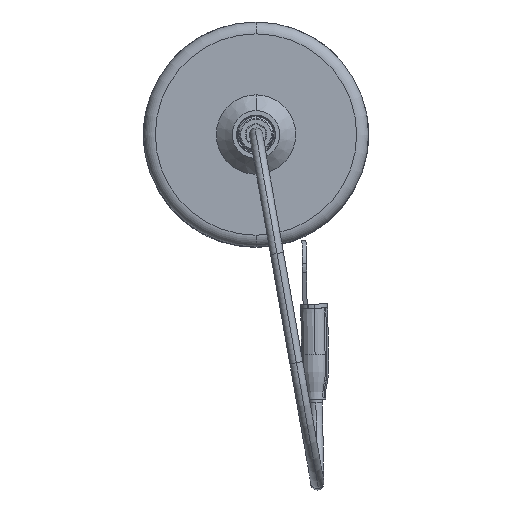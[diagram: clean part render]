
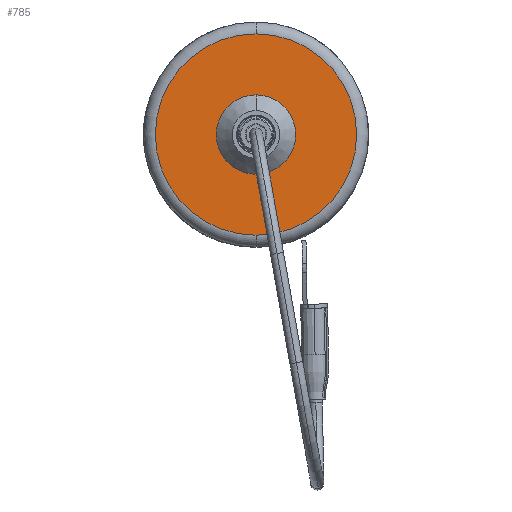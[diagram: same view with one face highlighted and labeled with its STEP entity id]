
A CAD part, top view. The second image highlights one B-rep face of the part: STEP entity #785.
In plain terms, the highlighted planar face has unit normal (0, 0, 1).
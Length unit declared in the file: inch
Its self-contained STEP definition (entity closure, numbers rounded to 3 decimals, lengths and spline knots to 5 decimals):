
#38 = DIRECTION ( 'NONE',  ( 0., 0., 1. ) ) ;
#494 = CARTESIAN_POINT ( 'NONE',  ( 0., -0.49902, 1.33465 ) ) ;
#785 = ADVANCED_FACE ( 'NONE', ( #6232, #12658 ), #11547, .F. ) ;
#1570 = EDGE_LOOP ( 'NONE', ( #12924, #6422 ) ) ;
#2026 = VERTEX_POINT ( 'NONE', #494 ) ;
#2315 = CIRCLE ( 'NONE', #10582, 0.49902 ) ;
#2923 = CARTESIAN_POINT ( 'NONE',  ( 0., 0., 1.33465 ) ) ;
#3079 = DIRECTION ( 'NONE',  ( 0., 1., 0. ) ) ;
#3282 = CIRCLE ( 'NONE', #8196, 0.19685 ) ;
#3397 = DIRECTION ( 'NONE',  ( 0., -1., 0. ) ) ;
#4674 = EDGE_CURVE ( 'NONE', #2026, #8300, #6841, .T. ) ;
#4904 = ORIENTED_EDGE ( 'NONE', *, *, #13763, .F. ) ;
#5161 = CARTESIAN_POINT ( 'NONE',  ( 0., 0.49902, 1.33465 ) ) ;
#5429 = DIRECTION ( 'NONE',  ( 0., 0., 1. ) ) ;
#5513 = CARTESIAN_POINT ( 'NONE',  ( 0., 0., 1.33465 ) ) ;
#5717 = DIRECTION ( 'NONE',  ( 0., 0., 1. ) ) ;
#5750 = EDGE_LOOP ( 'NONE', ( #10288, #4904 ) ) ;
#5945 = AXIS2_PLACEMENT_3D ( 'NONE', #5513, #5717, #12017 ) ;
#6162 = CARTESIAN_POINT ( 'NONE',  ( 0., -0.19685, 1.33465 ) ) ;
#6232 = FACE_BOUND ( 'NONE', #5750, .T. ) ;
#6307 = DIRECTION ( 'NONE',  ( 0., -1., 0. ) ) ;
#6422 = ORIENTED_EDGE ( 'NONE', *, *, #8697, .T. ) ;
#6841 = CIRCLE ( 'NONE', #5945, 0.49902 ) ;
#7371 = CARTESIAN_POINT ( 'NONE',  ( 0., 0., 1.33465 ) ) ;
#8196 = AXIS2_PLACEMENT_3D ( 'NONE', #12835, #5429, #3397 ) ;
#8300 = VERTEX_POINT ( 'NONE', #5161 ) ;
#8395 = DIRECTION ( 'NONE',  ( 0., 0., -1. ) ) ;
#8693 = CARTESIAN_POINT ( 'NONE',  ( 0., 0.19685, 1.33465 ) ) ;
#8697 = EDGE_CURVE ( 'NONE', #8300, #2026, #2315, .T. ) ;
#9494 = DIRECTION ( 'NONE',  ( 0., -1., 0. ) ) ;
#10288 = ORIENTED_EDGE ( 'NONE', *, *, #10534, .F. ) ;
#10534 = EDGE_CURVE ( 'NONE', #12546, #11170, #3282, .T. ) ;
#10582 = AXIS2_PLACEMENT_3D ( 'NONE', #7371, #11631, #6307 ) ;
#11062 = AXIS2_PLACEMENT_3D ( 'NONE', #11684, #8395, #3079 ) ;
#11170 = VERTEX_POINT ( 'NONE', #6162 ) ;
#11547 = PLANE ( 'NONE',  #11062 ) ;
#11631 = DIRECTION ( 'NONE',  ( 0., 0., 1. ) ) ;
#11684 = CARTESIAN_POINT ( 'NONE',  ( 0.19685, 0., 1.33465 ) ) ;
#12017 = DIRECTION ( 'NONE',  ( 0., -1., 0. ) ) ;
#12213 = AXIS2_PLACEMENT_3D ( 'NONE', #2923, #38, #9494 ) ;
#12546 = VERTEX_POINT ( 'NONE', #8693 ) ;
#12658 = FACE_OUTER_BOUND ( 'NONE', #1570, .T. ) ;
#12835 = CARTESIAN_POINT ( 'NONE',  ( 0., 0., 1.33465 ) ) ;
#12924 = ORIENTED_EDGE ( 'NONE', *, *, #4674, .T. ) ;
#13111 = CIRCLE ( 'NONE', #12213, 0.19685 ) ;
#13763 = EDGE_CURVE ( 'NONE', #11170, #12546, #13111, .T. ) ;
